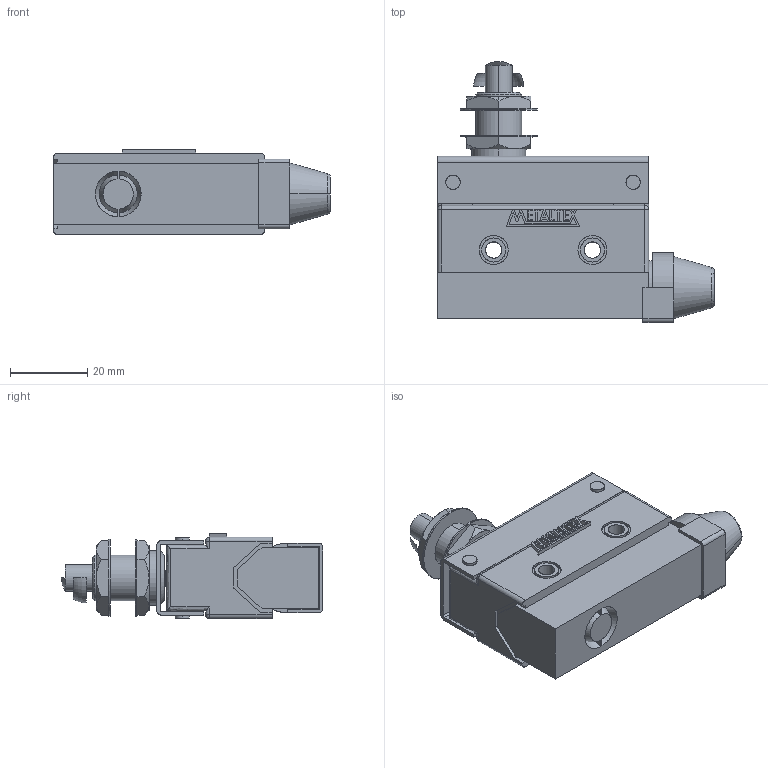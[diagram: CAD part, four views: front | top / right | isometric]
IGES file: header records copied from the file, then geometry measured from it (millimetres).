
Start section: SolidWorks IGES file using analytic representation for surfaces
Global section: file name: D:\X - Arquivos\PROEX\Empresas\P11 - METALTEX\01 - Produtos\IGES\4ª remessa\1ª etapa\FM7310.IGS; native system: SolidWorks 2012; preprocessor: SolidWorks 2012; author: Usuario; date: 180323.101944; units: millimetre
Bounding box: 71.5 x 67.4 x 22 mm (x, y, z)
Surface area: 17624 mm2 (no closed solid volume)
Topology: 0 solids, 0 shells, 389 faces, 5022 edges, 5009 vertices
Faces by surface type: bspline 242, revolution 147
